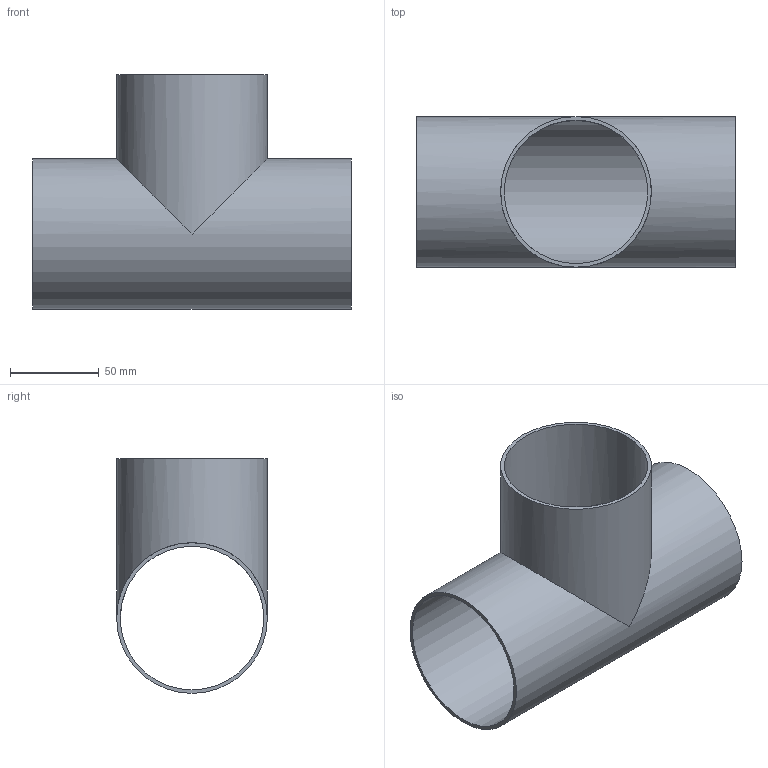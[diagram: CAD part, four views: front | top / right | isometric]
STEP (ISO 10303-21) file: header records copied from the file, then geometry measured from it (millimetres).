
FILE_DESCRIPTION(('FreeCAD Model'),'2;1');
FILE_NAME( '/home/martin/Documents/proyect/accesorios/stp/te_long_DN-80.step', '2018-01-07T08:11:41',('Author'),(''), 'Open CASCADE STEP processor 6.8','FreeCAD','Unknown');
FILE_SCHEMA(('AUTOMOTIVE_DESIGN_CC2 { 1 2 10303 214 -1 1 5 4 }'));
Length unit declared in the file: millimetre
Products named in the file (1): te_long_DN-80
Bounding box: 180 x 85 x 132.5 mm (x, y, z)
Volume: 113244.8 mm3; surface area: 114798.7 mm2
Topology: 1 solids, 1 shells, 7 faces, 16 edges, 12 vertices
Faces by surface type: cylinder 4, plane 3
Full cylindrical faces by diameter (mm): 81 x2, 85 x2
Entity records: 539 total; most frequent: CARTESIAN_POINT 180, DIRECTION 64, ORIENTED_EDGE 32, PCURVE 32, DEFINITIONAL_REPRESENTATION 32, AXIS2_PLACEMENT_3D 20, LINE 18, VECTOR 18
